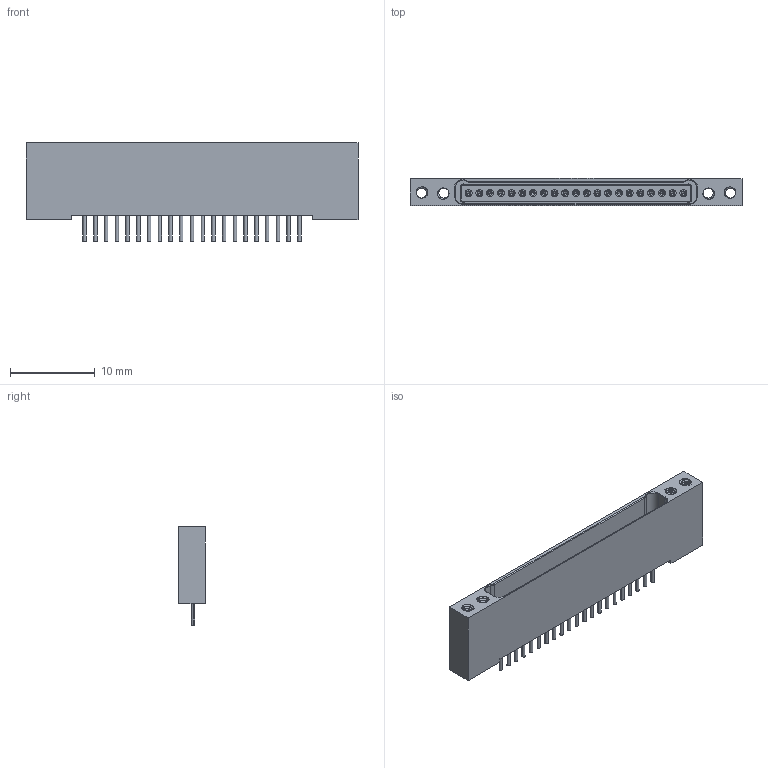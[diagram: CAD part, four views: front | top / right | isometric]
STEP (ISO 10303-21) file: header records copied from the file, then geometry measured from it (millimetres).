
FILE_DESCRIPTION (( 'STEP AP214' ), '1' );
FILE_NAME ('A92003-021 REV A.STEP', '2021-03-02T18:35:05', ( '' ), ( '' ), 'SwSTEP 2.0', 'SolidWorks 2019', '' );
FILE_SCHEMA (( 'AUTOMOTIVE_DESIGN' ));
Length unit declared in the file: inch
Products named in the file (1): A92003-021 REV A
Bounding box: 39.27 x 3.19 x 11.63 mm (x, y, z)
Volume: 689.6 mm3; surface area: 2360.2 mm2
Topology: 1 solids, 1 shells, 797 faces, 2062 edges, 1319 vertices
Faces by surface type: cylinder 424, plane 219, bspline 63, cone 48, torus 43
Entity records: 53710 total; most frequent: CARTESIAN_POINT 25450, ORIENTED_EDGE 4040, DIRECTION 3381, EDGE_CURVE 2020, VERTEX_POINT 1319, AXIS2_PLACEMENT_3D 1226, LINE 929, VECTOR 929
